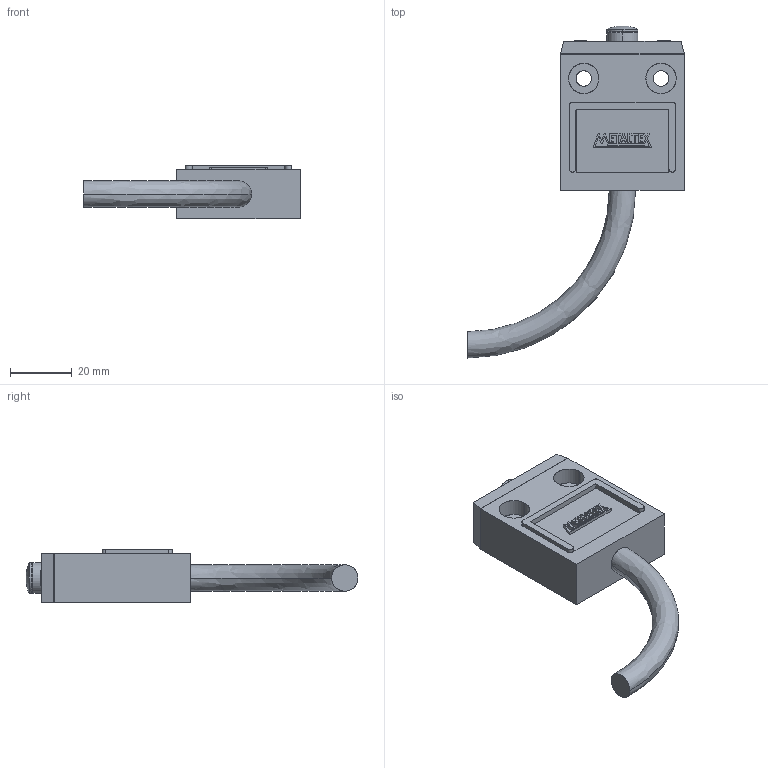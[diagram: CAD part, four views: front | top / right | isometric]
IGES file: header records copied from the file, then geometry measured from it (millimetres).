
Start section: SolidWorks IGES file using analytic representation for surfaces
Global section: file name: D:\X - Arquivos\PROEX\Empresas\P11 - METALTEX\01 - Produtos\IGES\6ª remessa\5ª etapa\TZ-3101.IGS; native system: SolidWorks 2012; preprocessor: SolidWorks 2012; author: Usuario; date: 190327.095013; units: millimetre
Bounding box: 70 x 107.33 x 17.3 mm (x, y, z)
Surface area: 10462.8 mm2 (no closed solid volume)
Topology: 0 solids, 0 shells, 212 faces, 1900 edges, 1900 vertices
Faces by surface type: bspline 181, revolution 31
